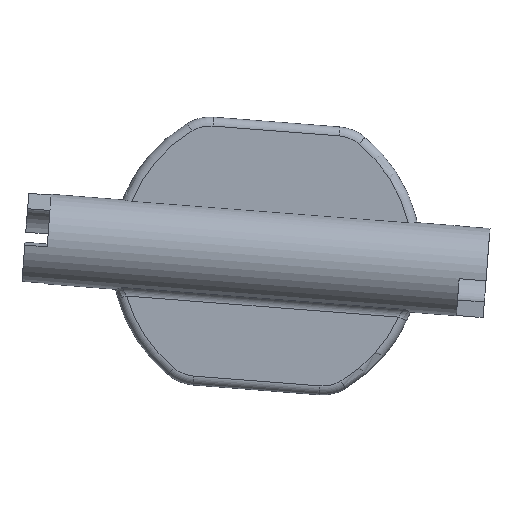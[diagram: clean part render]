
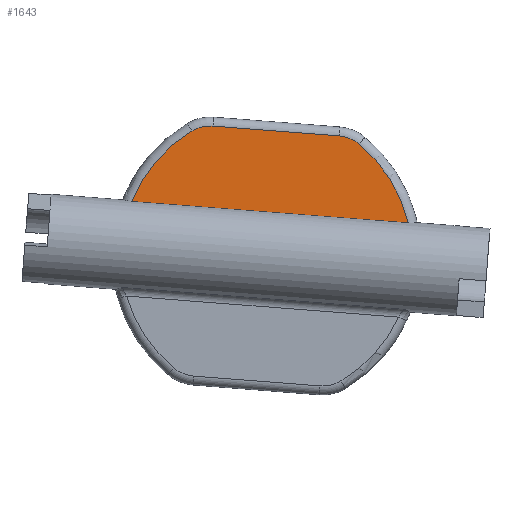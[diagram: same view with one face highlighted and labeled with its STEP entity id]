
A CAD part, front view. The second image highlights one B-rep face of the part: STEP entity #1643.
In plain terms, the highlighted planar face has unit normal (0, -1, 0).
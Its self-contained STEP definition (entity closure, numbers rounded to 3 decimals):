
#1=DIRECTION('',(0.997,0.,-0.077));
#2=VECTOR('',#1,30.925);
#3=CARTESIAN_POINT('',(918.313,-1.,121.423));
#4=LINE('',#3,#2);
#5=CARTESIAN_POINT('',(933.35,-1.,115.343));
#6=DIRECTION('',(0.,1.,0.));
#7=DIRECTION('',(-0.927,0.,0.375));
#8=AXIS2_PLACEMENT_3D('',#5,#6,#7);
#10=CARTESIAN_POINT('',(927.093,-1.,125.84));
#11=DIRECTION('',(0.,1.,0.));
#12=DIRECTION('',(-0.512,0.,0.859));
#13=AXIS2_PLACEMENT_3D('',#10,#11,#12);
#15=DIRECTION('',(0.997,0.,-0.077));
#16=VECTOR('',#15,14.1);
#17=CARTESIAN_POINT('',(927.402,-1.,129.828));
#18=LINE('',#17,#16);
#19=CARTESIAN_POINT('',(941.15,-1.,124.75));
#20=DIRECTION('',(0.,1.,0.));
#21=DIRECTION('',(0.077,0.,0.997));
#22=AXIS2_PLACEMENT_3D('',#19,#20,#21);
#24=CARTESIAN_POINT('',(933.35,-1.,115.343));
#25=DIRECTION('',(0.,1.,0.));
#26=DIRECTION('',(0.638,0.,0.77));
#27=AXIS2_PLACEMENT_3D('',#24,#25,#26);
#1415=CARTESIAN_POINT('',(918.313,-1.,121.423));
#1416=CARTESIAN_POINT('',(949.145,-1.,119.032));
#1417=VERTEX_POINT('',#1415);
#1418=VERTEX_POINT('',#1416);
#1616=CARTESIAN_POINT('',(941.46,-1.,128.738));
#1617=CARTESIAN_POINT('',(943.704,-1.,127.829));
#1618=VERTEX_POINT('',#1616);
#1619=VERTEX_POINT('',#1617);
#1620=CARTESIAN_POINT('',(925.045,-1.,129.276));
#1621=VERTEX_POINT('',#1620);
#1622=CARTESIAN_POINT('',(927.402,-1.,129.828));
#1623=VERTEX_POINT('',#1622);
#1624=CARTESIAN_POINT('',(0.,-1.,0.));
#1625=DIRECTION('',(0.,1.,0.));
#1626=DIRECTION('',(1.,0.,0.));
#1627=AXIS2_PLACEMENT_3D('',#1624,#1625,#1626);
#1628=PLANE('',#1627);
#1630=ORIENTED_EDGE('',*,*,#1629,.F.);
#1632=ORIENTED_EDGE('',*,*,#1631,.T.);
#1634=ORIENTED_EDGE('',*,*,#1633,.T.);
#1636=ORIENTED_EDGE('',*,*,#1635,.T.);
#1638=ORIENTED_EDGE('',*,*,#1637,.T.);
#1640=ORIENTED_EDGE('',*,*,#1639,.T.);
#1641=EDGE_LOOP('',(#1630,#1632,#1634,#1636,#1638,#1640));
#1642=FACE_OUTER_BOUND('',#1641,.F.);
#1643=ADVANCED_FACE('',(#1642),#1628,.F.);
#9=CIRCLE('',#8,16.22);
#14=CIRCLE('',#13,4.);
#23=CIRCLE('',#22,4.);
#28=CIRCLE('',#27,16.22);
#1629=EDGE_CURVE('',#1417,#1418,#4,.T.);
#1631=EDGE_CURVE('',#1417,#1621,#9,.T.);
#1633=EDGE_CURVE('',#1621,#1623,#14,.T.);
#1635=EDGE_CURVE('',#1623,#1618,#18,.T.);
#1637=EDGE_CURVE('',#1618,#1619,#23,.T.);
#1639=EDGE_CURVE('',#1619,#1418,#28,.T.);
